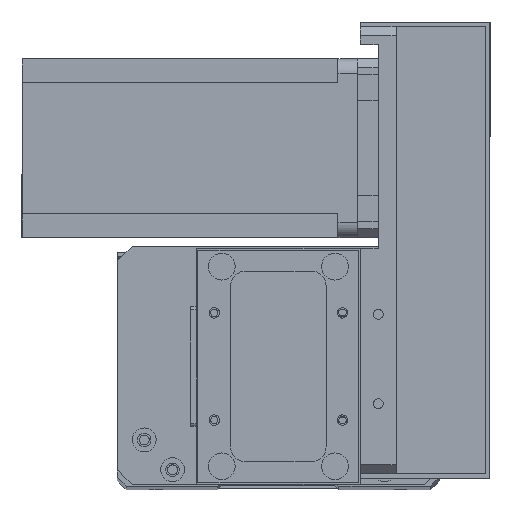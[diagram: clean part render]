
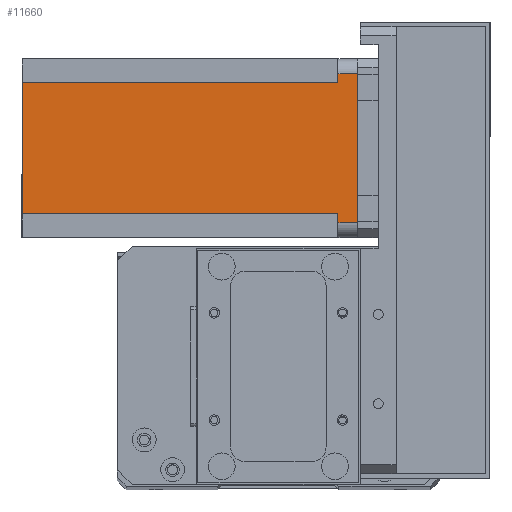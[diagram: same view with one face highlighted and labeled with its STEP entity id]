
A CAD part, top view. The second image highlights one B-rep face of the part: STEP entity #11660.
In plain terms, the highlighted planar face has unit normal (0, 0, 1) as drawn and (0, 1, 0) by its records, which use the part's own axes.
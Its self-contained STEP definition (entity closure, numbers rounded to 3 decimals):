
#404 = CARTESIAN_POINT ( 'NONE',  ( 55., 60., 0. ) ) ;
#486 = ORIENTED_EDGE ( 'NONE', *, *, #22311, .T. ) ;
#1035 = CARTESIAN_POINT ( 'NONE',  ( 0., 60., -112.5 ) ) ;
#1436 = EDGE_CURVE ( 'NONE', #21242, #29240, #3584, .T. ) ;
#1525 = PLANE ( 'NONE',  #6256 ) ;
#2591 = EDGE_CURVE ( 'NONE', #18746, #29240, #17409, .T. ) ;
#3124 = CARTESIAN_POINT ( 'NONE',  ( 8., 60., -6.5 ) ) ;
#3178 = CARTESIAN_POINT ( 'NONE',  ( 55., 60., -6.5 ) ) ;
#3584 = LINE ( 'NONE', #1035, #27090 ) ;
#3625 = DIRECTION ( 'NONE',  ( 1., 0., 0. ) ) ;
#3694 = CARTESIAN_POINT ( 'NONE',  ( 0., 60., -112.5 ) ) ;
#3767 = EDGE_CURVE ( 'NONE', #18746, #18976, #25488, .T. ) ;
#3813 = DIRECTION ( 'NONE',  ( 0., 0., 1. ) ) ;
#4029 = VECTOR ( 'NONE', #26756, 1000. ) ;
#4803 = CARTESIAN_POINT ( 'NONE',  ( 55., 60., -112.5 ) ) ;
#4903 = DIRECTION ( 'NONE',  ( 0., 0., -1. ) ) ;
#5175 = CARTESIAN_POINT ( 'NONE',  ( 5., 60., 0. ) ) ;
#5578 = VERTEX_POINT ( 'NONE', #13977 ) ;
#5863 = CARTESIAN_POINT ( 'NONE',  ( 0., 60., 0. ) ) ;
#6256 = AXIS2_PLACEMENT_3D ( 'NONE', #3694, #17433, #3813 ) ;
#6332 = VERTEX_POINT ( 'NONE', #3178 ) ;
#7155 = ORIENTED_EDGE ( 'NONE', *, *, #1436, .T. ) ;
#7573 = CARTESIAN_POINT ( 'NONE',  ( 5., 60., -6.5 ) ) ;
#7797 = ORIENTED_EDGE ( 'NONE', *, *, #2591, .F. ) ;
#8352 = CARTESIAN_POINT ( 'NONE',  ( 8., 60., -112.5 ) ) ;
#8628 = LINE ( 'NONE', #4803, #26035 ) ;
#8762 = EDGE_CURVE ( 'NONE', #17242, #17340, #21628, .T. ) ;
#8898 = ORIENTED_EDGE ( 'NONE', *, *, #26853, .T. ) ;
#10129 = CARTESIAN_POINT ( 'NONE',  ( 8., 60., -112.5 ) ) ;
#10567 = VECTOR ( 'NONE', #3625, 1000. ) ;
#11356 = CARTESIAN_POINT ( 'NONE',  ( 8., 60., -6.5 ) ) ;
#11660 = ADVANCED_FACE ( 'NONE', ( #29124 ), #1525, .T. ) ;
#13036 = CARTESIAN_POINT ( 'NONE',  ( 5., 60., -112.5 ) ) ;
#13375 = VECTOR ( 'NONE', #19030, 1000. ) ;
#13816 = ORIENTED_EDGE ( 'NONE', *, *, #28264, .F. ) ;
#13949 = DIRECTION ( 'NONE',  ( 0., 0., 1. ) ) ;
#13977 = CARTESIAN_POINT ( 'NONE',  ( 52., 60., -6.5 ) ) ;
#14107 = CARTESIAN_POINT ( 'NONE',  ( 52., 60., -112.5 ) ) ;
#14349 = ORIENTED_EDGE ( 'NONE', *, *, #3767, .T. ) ;
#14598 = VECTOR ( 'NONE', #13949, 1000. ) ;
#14735 = DIRECTION ( 'NONE',  ( -1., 0., 0. ) ) ;
#15318 = LINE ( 'NONE', #22993, #14598 ) ;
#15878 = LINE ( 'NONE', #28600, #10567 ) ;
#16109 = LINE ( 'NONE', #13036, #4029 ) ;
#17242 = VERTEX_POINT ( 'NONE', #404 ) ;
#17340 = VERTEX_POINT ( 'NONE', #5175 ) ;
#17409 = LINE ( 'NONE', #10129, #22743 ) ;
#17433 = DIRECTION ( 'NONE',  ( 0., 1., 0. ) ) ;
#18746 = VERTEX_POINT ( 'NONE', #11356 ) ;
#18976 = VERTEX_POINT ( 'NONE', #7573 ) ;
#19030 = DIRECTION ( 'NONE',  ( -1., 0., 0. ) ) ;
#20150 = ORIENTED_EDGE ( 'NONE', *, *, #8762, .F. ) ;
#20603 = EDGE_LOOP ( 'NONE', ( #20150, #486, #21904, #13816, #7155, #7797, #14349, #8898 ) ) ;
#21242 = VERTEX_POINT ( 'NONE', #14107 ) ;
#21628 = LINE ( 'NONE', #5863, #26969 ) ;
#21904 = ORIENTED_EDGE ( 'NONE', *, *, #24052, .F. ) ;
#22311 = EDGE_CURVE ( 'NONE', #17242, #6332, #8628, .T. ) ;
#22743 = VECTOR ( 'NONE', #28124, 1000. ) ;
#22993 = CARTESIAN_POINT ( 'NONE',  ( 52., 60., -112.5 ) ) ;
#24052 = EDGE_CURVE ( 'NONE', #5578, #6332, #15878, .T. ) ;
#25488 = LINE ( 'NONE', #3124, #13375 ) ;
#26035 = VECTOR ( 'NONE', #4903, 1000. ) ;
#26756 = DIRECTION ( 'NONE',  ( 0., 0., 1. ) ) ;
#26853 = EDGE_CURVE ( 'NONE', #18976, #17340, #16109, .T. ) ;
#26969 = VECTOR ( 'NONE', #28622, 1000. ) ;
#27090 = VECTOR ( 'NONE', #14735, 1000. ) ;
#28124 = DIRECTION ( 'NONE',  ( 0., 0., -1. ) ) ;
#28264 = EDGE_CURVE ( 'NONE', #21242, #5578, #15318, .T. ) ;
#28600 = CARTESIAN_POINT ( 'NONE',  ( 52., 60., -6.5 ) ) ;
#28622 = DIRECTION ( 'NONE',  ( -1., 0., 0. ) ) ;
#29124 = FACE_OUTER_BOUND ( 'NONE', #20603, .T. ) ;
#29240 = VERTEX_POINT ( 'NONE', #8352 ) ;
